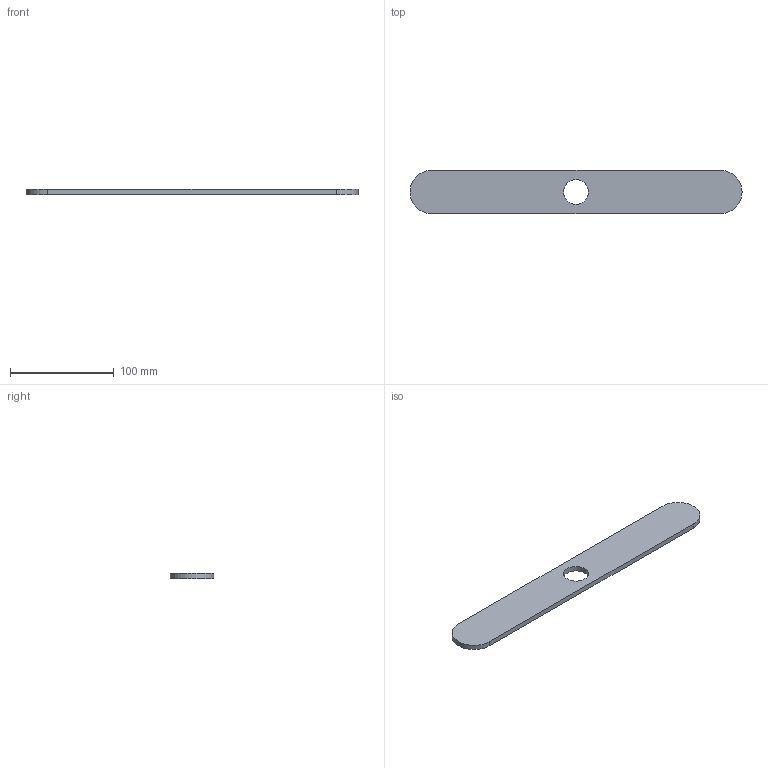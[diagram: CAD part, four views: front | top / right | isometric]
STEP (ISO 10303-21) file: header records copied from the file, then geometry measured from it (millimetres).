
FILE_DESCRIPTION(('Open CASCADE Model'),'2;1');
FILE_NAME('Open CASCADE Shape Model','2026-09-19T16:36:14',('Author'),( 'Open CASCADE'),'Open CASCADE STEP processor 7.8','Open CASCADE 7.8' ,'Unknown');
FILE_SCHEMA(('AUTOMOTIVE_DESIGN { 1 0 10303 214 1 1 1 1 }'));
Length unit declared in the file: millimetre
Products named in the file (1): Open CASCADE STEP translator 7.8 8
Bounding box: 320 x 42 x 5 mm (x, y, z)
Volume: 63045.3 mm3; surface area: 29034.8 mm2
Topology: 1 solids, 1 shells, 7 faces, 15 edges, 10 vertices
Faces by surface type: plane 4, cylinder 3
Full cylindrical faces by diameter (mm): 24 x1
Entity records: 404 total; most frequent: DIRECTION 67, CARTESIAN_POINT 63, LINE 33, VECTOR 33, ORIENTED_EDGE 30, PCURVE 30, DEFINITIONAL_REPRESENTATION 30, EDGE_CURVE 15
